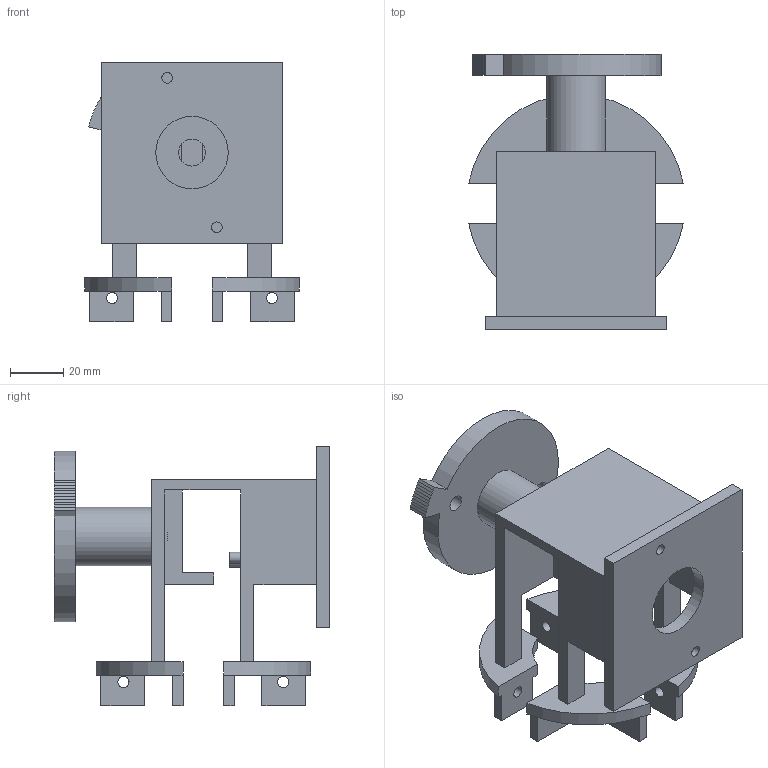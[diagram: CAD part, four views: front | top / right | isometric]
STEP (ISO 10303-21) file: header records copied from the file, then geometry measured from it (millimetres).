
FILE_DESCRIPTION(('Open CASCADE Model'),'2;1');
FILE_NAME('Open CASCADE Shape Model','2026-10-17T22:15:36',('Author'),( 'Open CASCADE'),'Open CASCADE STEP processor 7.9','Open CASCADE 7.9' ,'Unknown');
FILE_SCHEMA(('AUTOMOTIVE_DESIGN { 1 0 10303 214 1 1 1 1 }'));
Length unit declared in the file: millimetre
Products named in the file (1): Open CASCADE STEP translator 7.9 12
Bounding box: 80.58 x 103.5 x 97.6 mm (x, y, z)
Volume: 126464.9 mm3; surface area: 55836.8 mm2
Topology: 1 solids, 1 shells, 130 faces, 351 edges, 234 vertices
Faces by surface type: plane 99, cylinder 31
Full cylindrical faces by diameter (mm): 4 x4, 4.2 x8, 6.1 x3, 8 x4, 10.1 x1, 22 x1, 27.2 x1
Entity records: 8673 total; most frequent: CARTESIAN_POINT 1770, DIRECTION 1210, LINE 800, VECTOR 800, ORIENTED_EDGE 702, PCURVE 702, DEFINITIONAL_REPRESENTATION 702, EDGE_CURVE 351
